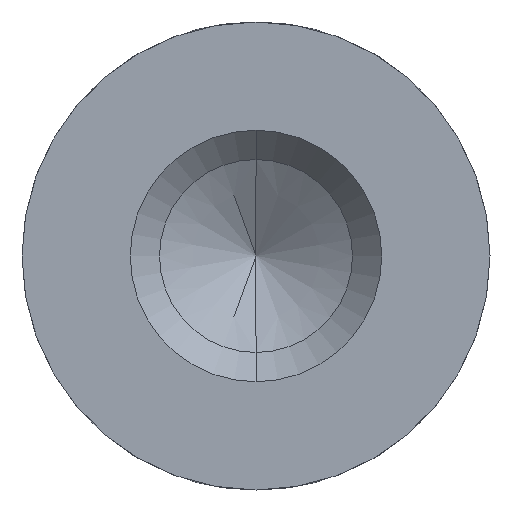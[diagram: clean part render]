
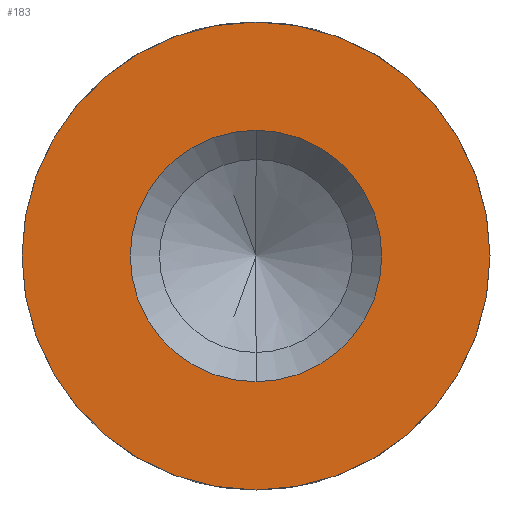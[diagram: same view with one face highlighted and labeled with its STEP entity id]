
A CAD part, front view. The second image highlights one B-rep face of the part: STEP entity #183.
In plain terms, the highlighted planar face has unit normal (0, -1, 0).
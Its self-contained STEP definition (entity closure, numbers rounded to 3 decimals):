
#26 = CARTESIAN_POINT ( 'NONE',  ( 2.875, -1., 0. ) ) ;
#44 = DIRECTION ( 'NONE',  ( 0., 1., 0. ) ) ;
#81 = PLANE ( 'NONE',  #119 ) ;
#89 = DIRECTION ( 'NONE',  ( 0., 0., 1. ) ) ;
#95 = EDGE_LOOP ( 'NONE', ( #537, #590 ) ) ;
#110 = CARTESIAN_POINT ( 'NONE',  ( 0., -1., -4. ) ) ;
#119 = AXIS2_PLACEMENT_3D ( 'NONE', #26, #277, #177 ) ;
#121 = CARTESIAN_POINT ( 'NONE',  ( 0., -1., 4. ) ) ;
#140 = CARTESIAN_POINT ( 'NONE',  ( 0., -1., -2.15 ) ) ;
#142 = VERTEX_POINT ( 'NONE', #121 ) ;
#156 = CIRCLE ( 'NONE', #393, 2.15 ) ;
#175 = FACE_OUTER_BOUND ( 'NONE', #529, .T. ) ;
#177 = DIRECTION ( 'NONE',  ( 0., 0., -1. ) ) ;
#183 = ADVANCED_FACE ( 'NONE', ( #455, #175 ), #81, .T. ) ;
#224 = DIRECTION ( 'NONE',  ( 0., 0., -1. ) ) ;
#250 = EDGE_CURVE ( 'NONE', #508, #368, #156, .T. ) ;
#277 = DIRECTION ( 'NONE',  ( 0., -1., 0. ) ) ;
#287 = CARTESIAN_POINT ( 'NONE',  ( 0., -1., 0. ) ) ;
#289 = AXIS2_PLACEMENT_3D ( 'NONE', #440, #492, #595 ) ;
#350 = EDGE_CURVE ( 'NONE', #142, #646, #573, .T. ) ;
#353 = ORIENTED_EDGE ( 'NONE', *, *, #350, .F. ) ;
#366 = AXIS2_PLACEMENT_3D ( 'NONE', #612, #44, #663 ) ;
#368 = VERTEX_POINT ( 'NONE', #140 ) ;
#369 = EDGE_CURVE ( 'NONE', #646, #142, #478, .T. ) ;
#393 = AXIS2_PLACEMENT_3D ( 'NONE', #645, #480, #224 ) ;
#421 = CARTESIAN_POINT ( 'NONE',  ( 0., -1., 2.15 ) ) ;
#440 = CARTESIAN_POINT ( 'NONE',  ( 0., -1., 0. ) ) ;
#455 = FACE_BOUND ( 'NONE', #95, .T. ) ;
#478 = CIRCLE ( 'NONE', #366, 4. ) ;
#480 = DIRECTION ( 'NONE',  ( 0., 1., 0. ) ) ;
#492 = DIRECTION ( 'NONE',  ( 0., 1., 0. ) ) ;
#508 = VERTEX_POINT ( 'NONE', #421 ) ;
#510 = CIRCLE ( 'NONE', #289, 2.15 ) ;
#529 = EDGE_LOOP ( 'NONE', ( #353, #574 ) ) ;
#537 = ORIENTED_EDGE ( 'NONE', *, *, #647, .T. ) ;
#557 = AXIS2_PLACEMENT_3D ( 'NONE', #287, #607, #89 ) ;
#573 = CIRCLE ( 'NONE', #557, 4. ) ;
#574 = ORIENTED_EDGE ( 'NONE', *, *, #369, .F. ) ;
#590 = ORIENTED_EDGE ( 'NONE', *, *, #250, .T. ) ;
#595 = DIRECTION ( 'NONE',  ( 0., 0., -1. ) ) ;
#607 = DIRECTION ( 'NONE',  ( 0., 1., 0. ) ) ;
#612 = CARTESIAN_POINT ( 'NONE',  ( 0., -1., 0. ) ) ;
#645 = CARTESIAN_POINT ( 'NONE',  ( 0., -1., 0. ) ) ;
#646 = VERTEX_POINT ( 'NONE', #110 ) ;
#647 = EDGE_CURVE ( 'NONE', #368, #508, #510, .T. ) ;
#663 = DIRECTION ( 'NONE',  ( 0., 0., 1. ) ) ;
